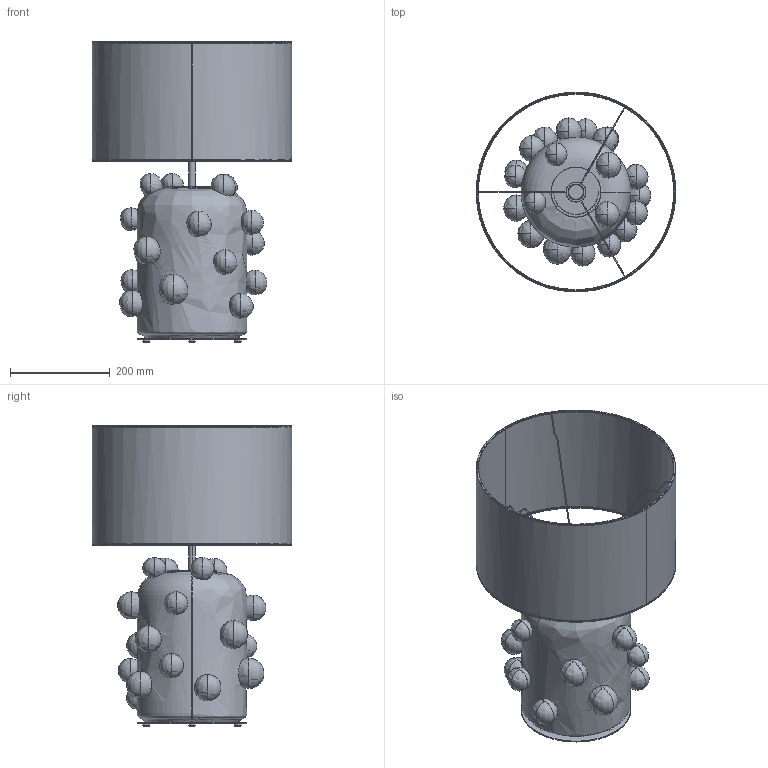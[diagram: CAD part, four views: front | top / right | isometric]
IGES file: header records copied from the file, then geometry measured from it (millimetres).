
Start section: SolidWorks IGES file using analytic representation for surfaces
Global section: file name: C:\Users\Agustin\Desktop\COMPARTIDA\NUEVO PRODUCTO\SIMOD NAC154\3D\SIMOD_NAC154.IGS; native system: SolidWorks 2023; preprocessor: SolidWorks 2023; author: Agustin; date: 260622.090954; units: millimetre
Bounding box: 399.73 x 400 x 602 mm (x, y, z)
Surface area: 1352581.7 mm2 (no closed solid volume)
Topology: 0 solids, 0 shells, 300 faces, 6105 edges, 5982 vertices
Faces by surface type: bspline 288, revolution 12
